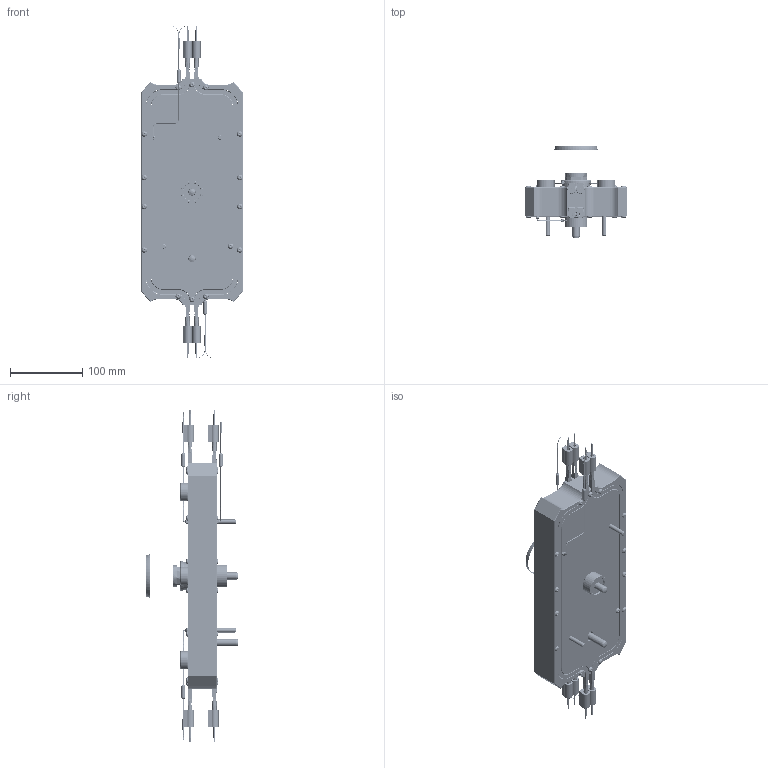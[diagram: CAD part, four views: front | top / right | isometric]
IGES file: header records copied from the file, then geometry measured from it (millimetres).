
Start section: SolidWorks IGES file using analytic representation for surfaces
Global section: file name: F:\CARTELLA CONDIVISA - 3D\01 - Piastre - 3D\Piastre Standard - Resistenza Sezione Quadrata 6x6\LP2-A06\Parte Multicorpo + Positivo Sede\CCLP2AQ-06T\CCLP2AQ-06T.IGS; native system: SolidWorks 2013; preprocessor: SolidWorks 2013; author: ws-20; date: 140131.090645; units: millimetre
Bounding box: 140 x 127.87 x 458.15 mm (x, y, z)
Surface area: 222195.6 mm2 (no closed solid volume)
Topology: 0 solids, 0 shells, 3253 faces, 34352 edges, 41616 vertices
Faces by surface type: bspline 1706, revolution 1547
